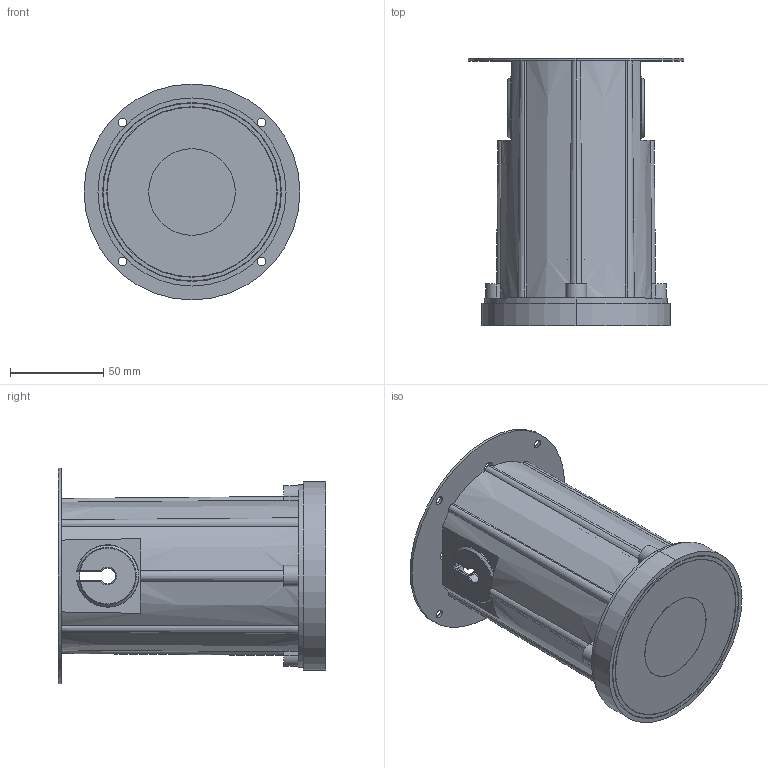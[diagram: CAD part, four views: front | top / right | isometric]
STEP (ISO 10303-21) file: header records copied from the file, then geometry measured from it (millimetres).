
FILE_DESCRIPTION((''),'2;1');
FILE_NAME('RB2CNR0126--_ASM','2025-03-15T',('C028'),(''),'CREO PARAMETRIC BY PTC INC, 2014190','CREO PARAMETRIC BY PTC INC, 2014190','');
FILE_SCHEMA(('CONFIG_CONTROL_DESIGN'));
Length unit declared in the file: millimetre
Products named in the file (17): 2CMR__-17539_1_1; 2DF______1_1; 2CM____1_1; 2CMR__-17506_1_1; EXTRUDE2_1_1; CIRPATTERN1_1_1; R8_ASM_1_ASM_1_ASM; 2CMR_______1_1; 2CNR-R___1_1; 2CNR___1_1; RB2CNR0126_1_ASM_1_ASM_1_ASM; Y_3_1_1_1_1_1; 2CNR-R___1; RB2CNR0126_ASM_1_ASM_1_ASM; RB2CNR0126_ASM_1_ASM; PRT0021; RB2CNR0126--_ASM
Assembly tree (18 placements, depth 6):
  RB2CNR0126--_ASM
    RB2CNR0126_ASM_1_ASM
      RB2CNR0126_ASM_1_ASM_1_ASM
        RB2CNR0126_1_ASM_1_ASM_1_ASM
          2CMR__-17539_1_1
          2DF______1_1
          2CM____1_1
          2CMR__-17506_1_1  x2
          R8_ASM_1_ASM_1_ASM
            EXTRUDE2_1_1
            CIRPATTERN1_1_1
          2CMR_______1_1
          2CNR-R___1_1
          2CNR___1_1
        Y_3_1_1_1_1_1  x2
        2CNR-R___1
    PRT0021
Bounding box: 116 x 143.65 x 116 mm (x, y, z)
Volume: 259519.7 mm3; surface area: 199447 mm2
Topology: 12 solids, 12 shells, 802 faces, 2237 edges, 1474 vertices
Faces by surface type: cylinder 295, plane 276, cone 149, bspline 38, torus 24, sphere 20
Entity records: 25285 total; most frequent: CARTESIAN_POINT 6144, DIRECTION 4135, ORIENTED_EDGE 3930, EDGE_CURVE 1965, AXIS2_PLACEMENT_3D 1670, VERTEX_POINT 1298, CIRCLE 939, EDGE_LOOP 823
